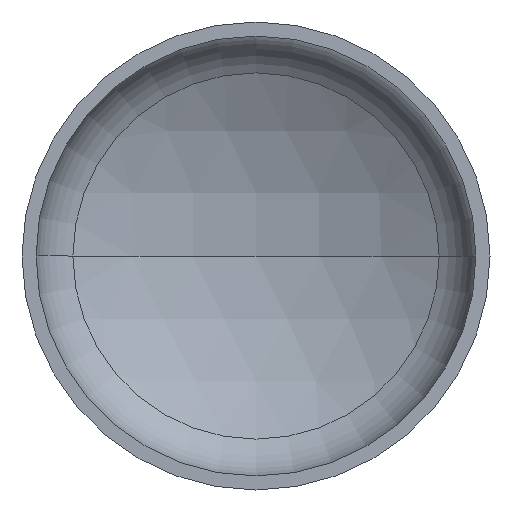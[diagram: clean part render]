
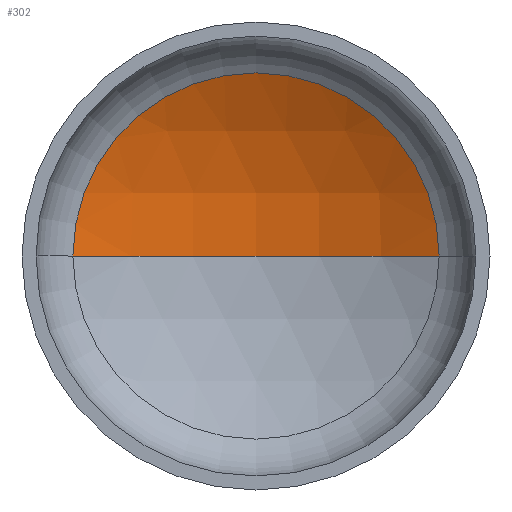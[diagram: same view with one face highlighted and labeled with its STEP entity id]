
A CAD part, front view. The second image highlights one B-rep face of the part: STEP entity #302.
In plain terms, the highlighted spherical face has radius 1920 mm.
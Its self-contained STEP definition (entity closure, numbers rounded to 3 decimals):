
#7 = DIRECTION ( 'NONE',  ( 1., 0., 0. ) ) ;
#12 = AXIS2_PLACEMENT_3D ( 'NONE', #111, #92, #153 ) ;
#20 = VERTEX_POINT ( 'NONE', #286 ) ;
#29 = AXIS2_PLACEMENT_3D ( 'NONE', #391, #343, #161 ) ;
#32 = AXIS2_PLACEMENT_3D ( 'NONE', #219, #214, #218 ) ;
#33 = AXIS2_PLACEMENT_3D ( 'NONE', #194, #199, #7 ) ;
#35 = ORIENTED_EDGE ( 'NONE', *, *, #142, .F. ) ;
#61 = FACE_OUTER_BOUND ( 'NONE', #175, .T. ) ;
#81 = EDGE_CURVE ( 'NONE', #292, #20, #123, .T. ) ;
#92 = DIRECTION ( 'NONE',  ( 0., 0., -1. ) ) ;
#104 = CIRCLE ( 'NONE', #32, 1920. ) ;
#108 = EDGE_CURVE ( 'NONE', #151, #292, #209, .T. ) ;
#110 = CARTESIAN_POINT ( 'NONE',  ( 938.942, 442.738, 0. ) ) ;
#111 = CARTESIAN_POINT ( 'NONE',  ( 0., -1232.012, 0. ) ) ;
#123 = CIRCLE ( 'NONE', #33, 938.942 ) ;
#125 = ORIENTED_EDGE ( 'NONE', *, *, #108, .T. ) ;
#142 = EDGE_CURVE ( 'NONE', #151, #20, #104, .T. ) ;
#151 = VERTEX_POINT ( 'NONE', #254 ) ;
#153 = DIRECTION ( 'NONE',  ( -1., 0., 0. ) ) ;
#161 = DIRECTION ( 'NONE',  ( -1., 0., 0. ) ) ;
#175 = EDGE_LOOP ( 'NONE', ( #35, #125, #195 ) ) ;
#178 = SPHERICAL_SURFACE ( 'NONE', #12, 1920. ) ;
#194 = CARTESIAN_POINT ( 'NONE',  ( 0., 442.738, 0. ) ) ;
#195 = ORIENTED_EDGE ( 'NONE', *, *, #81, .T. ) ;
#199 = DIRECTION ( 'NONE',  ( 0., -1., 0. ) ) ;
#209 = CIRCLE ( 'NONE', #29, 1920. ) ;
#214 = DIRECTION ( 'NONE',  ( 0., 0., 1. ) ) ;
#218 = DIRECTION ( 'NONE',  ( 1., 0., 0. ) ) ;
#219 = CARTESIAN_POINT ( 'NONE',  ( 0., -1232.012, 0. ) ) ;
#254 = CARTESIAN_POINT ( 'NONE',  ( 0., 687.988, 0. ) ) ;
#286 = CARTESIAN_POINT ( 'NONE',  ( -938.942, 442.738, 0. ) ) ;
#292 = VERTEX_POINT ( 'NONE', #110 ) ;
#302 = ADVANCED_FACE ( 'NONE', ( #61 ), #178, .F. ) ;
#343 = DIRECTION ( 'NONE',  ( 0., 0., -1. ) ) ;
#391 = CARTESIAN_POINT ( 'NONE',  ( 0., -1232.012, 0. ) ) ;
